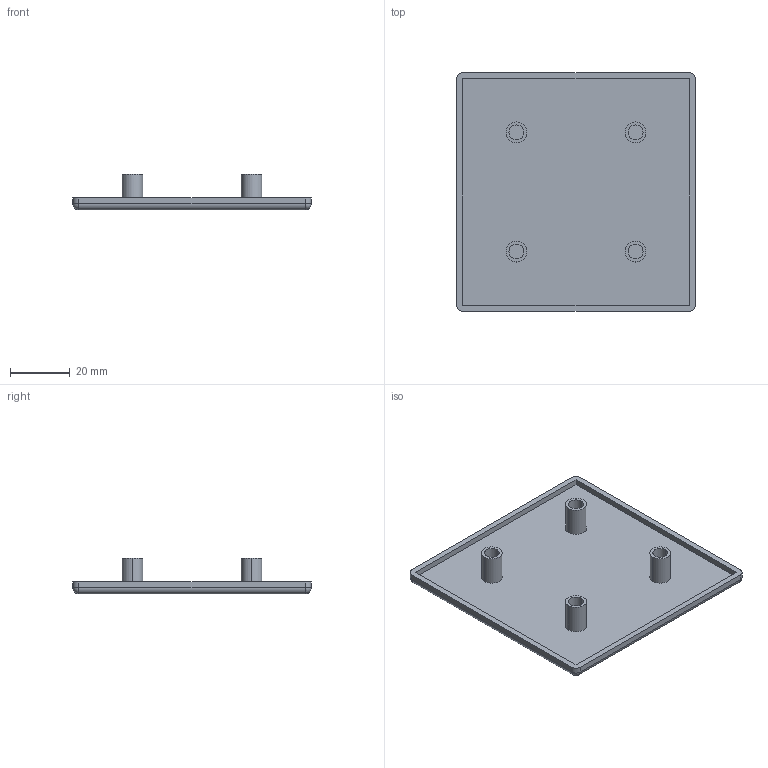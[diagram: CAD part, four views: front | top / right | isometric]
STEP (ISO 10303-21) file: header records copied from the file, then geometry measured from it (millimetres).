
FILE_DESCRIPTION (( 'STEP AP203' ), '1' );
FILE_NAME ('181-CE-CP-8080.STEP', '2015-07-09T09:17:05', ( '' ), ( '' ), 'SwSTEP 2.0', 'SolidWorks 2013', '' );
FILE_SCHEMA (( 'CONFIG_CONTROL_DESIGN' ));
Length unit declared in the file: millimetre
Products named in the file (1): 181-CE-CP-8080
Bounding box: 80 x 80 x 12 mm (x, y, z)
Volume: 14518.9 mm3; surface area: 15901.8 mm2
Topology: 1 solids, 1 shells, 47 faces, 100 edges, 60 vertices
Faces by surface type: cylinder 24, plane 19, sphere 4
Entity records: 1319 total; most frequent: DIRECTION 240, CARTESIAN_POINT 204, ORIENTED_EDGE 192, AXIS2_PLACEMENT_3D 96, EDGE_CURVE 96, VERTEX_POINT 60, EDGE_LOOP 56, CIRCLE 48
